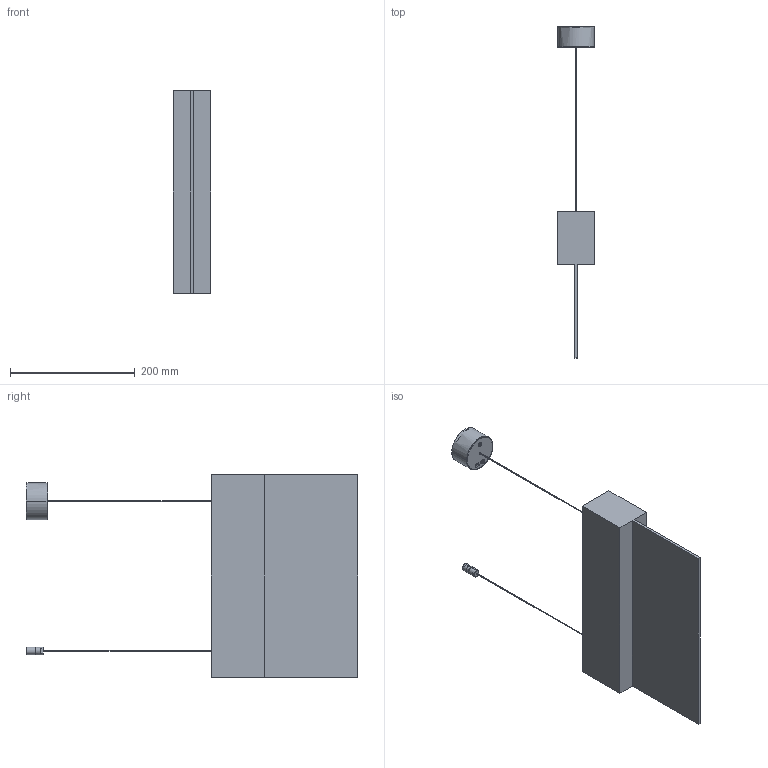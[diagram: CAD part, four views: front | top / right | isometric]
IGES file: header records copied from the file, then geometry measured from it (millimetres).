
Start section: SolidWorks IGES file using analytic representation for surfaces
Global section: file name: C:\Users\joaom\Desktop\02_3D.2D\01_2020\04_Safe\03_LS\01_LS\Suspensa\DWG_3D_LS_Suspensa.IGS; native system: SolidWorks 2020; preprocessor: SolidWorks 2020; author: joaom; date: 201109.190821; units: millimetre
Bounding box: 60 x 531.57 x 325 mm (x, y, z)
Surface area: 232347.6 mm2 (no closed solid volume)
Topology: 0 solids, 0 shells, 185 faces, 3106 edges, 3106 vertices
Faces by surface type: bspline 118, revolution 67
